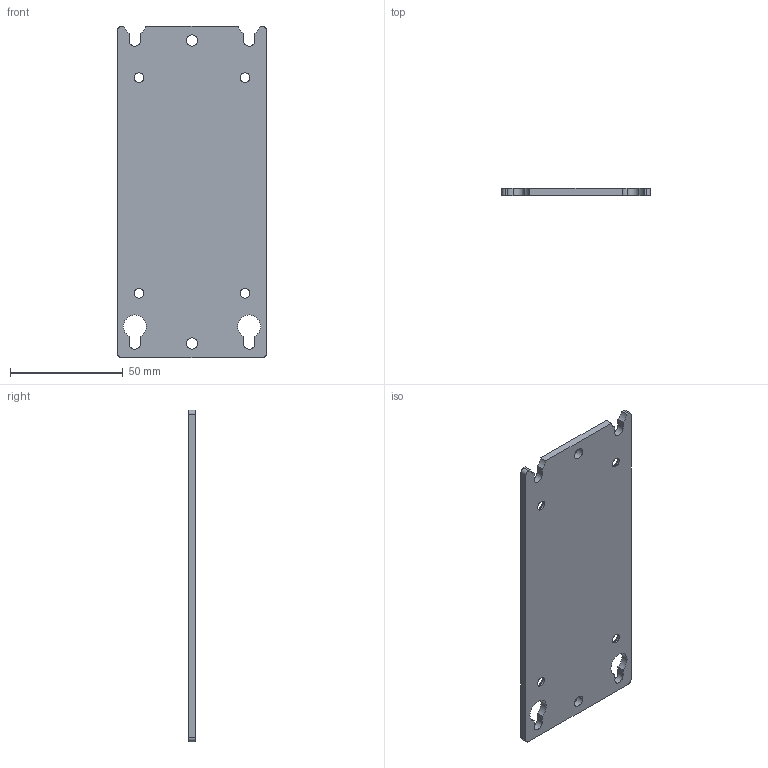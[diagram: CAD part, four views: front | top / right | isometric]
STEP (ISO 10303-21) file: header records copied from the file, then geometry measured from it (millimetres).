
FILE_DESCRIPTION((''),'2;1');
FILE_NAME('CU_PANEL_MOUNT','2010-10-05T',('dkendric'),(''),'PRO/ENGINEER BY PARAMETRIC TECHNOLOGY CORPORATION, 2006510','PRO/ENGINEER BY PARAMETRIC TECHNOLOGY CORPORATION, 2006510','');
FILE_SCHEMA(('CONFIG_CONTROL_DESIGN'));
Length unit declared in the file: inch
Products named in the file (1): CU_PANEL_MOUNT
Bounding box: 66.04 x 3.17 x 147.32 mm (x, y, z)
Volume: 29369.8 mm3; surface area: 20540.3 mm2
Topology: 1 solids, 1 shells, 50 faces, 136 edges, 88 vertices
Faces by surface type: cylinder 26, plane 16, cone 8
Entity records: 1668 total; most frequent: DIRECTION 296, CARTESIAN_POINT 274, ORIENTED_EDGE 272, EDGE_CURVE 136, AXIS2_PLACEMENT_3D 110, VERTEX_POINT 88, VECTOR 76, LINE 76
